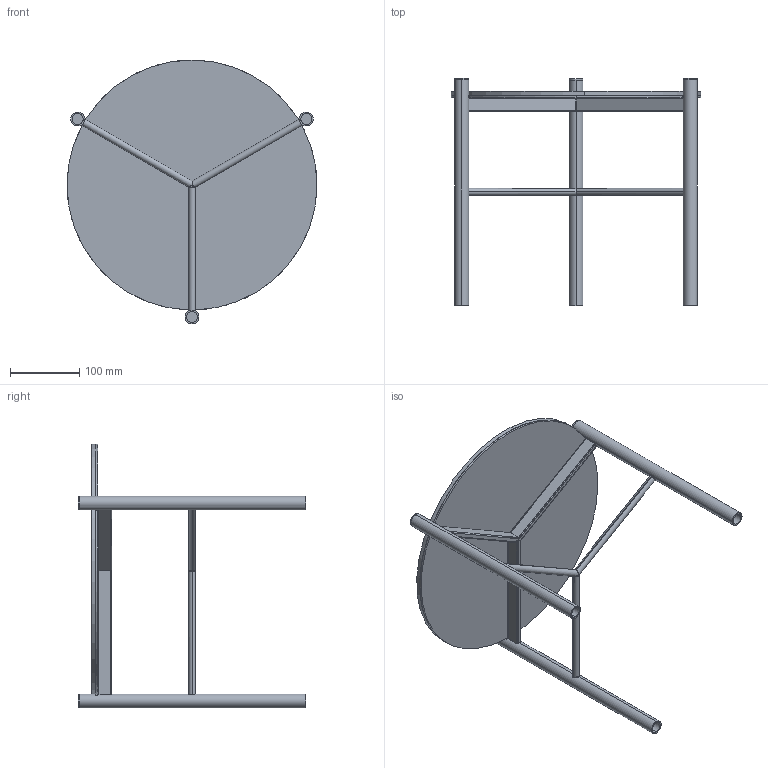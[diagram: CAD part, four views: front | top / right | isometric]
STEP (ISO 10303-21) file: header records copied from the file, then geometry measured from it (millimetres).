
FILE_DESCRIPTION (( 'STEP AP203' ), '1' );
FILE_NAME ('J401C.STEP', '2024-08-06T11:44:29', ( '' ), ( '' ), 'SwSTEP 2.0', 'SolidWorks 2022', '' );
FILE_SCHEMA (( 'CONFIG_CONTROL_DESIGN' ));
Length unit declared in the file: millimetre
Products named in the file (3): JXXXS00000000-00-jack metallo grezzo tutte le misure_J5B000001-JACK TAVOLINO D.36x31h<A macchina>; J401C; K1XCMXX-00-Piani Rotondi in ceramica_D.360
Assembly tree (2 placements, depth 2):
  J401C
    JXXXS00000000-00-jack metallo grezzo tutte le misure_J5B000001-JACK TAVOLINO D.36x31h<A macchina>
    K1XCMXX-00-Piani Rotondi in ceramica_D.360
Bounding box: 359.95 x 327 x 380.07 mm (x, y, z)
Volume: 1070666.7 mm3; surface area: 615880.2 mm2
Topology: 14 solids, 14 shells, 125 faces, 293 edges, 194 vertices
Faces by surface type: cylinder 73, plane 52
Entity records: 4516 total; most frequent: CARTESIAN_POINT 1449, ORIENTED_EDGE 586, DIRECTION 541, EDGE_CURVE 293, AXIS2_PLACEMENT_3D 196, VERTEX_POINT 194, VECTOR 149, LINE 149
